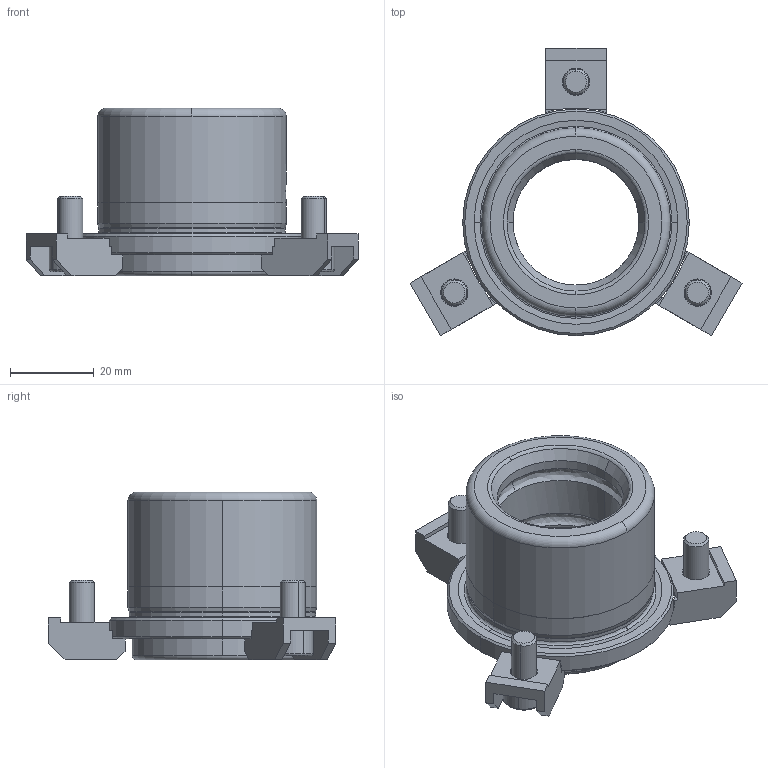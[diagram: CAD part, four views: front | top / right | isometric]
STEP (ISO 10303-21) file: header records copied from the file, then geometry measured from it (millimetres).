
FILE_DESCRIPTION((''),'2;1');
FILE_NAME('B12_030_010.stp','2008-11-04T13:48:52',(''),(''),'Mechanical Desktop 2009','Mechanical Desktop 2009',', , ');
FILE_SCHEMA(('CONFIG_CONTROL_DESIGN'));
Length unit declared in the file: millimetre
Products named in the file (2): Product; blmdl1
Assembly tree (1 placements, depth 2):
  Product
    blmdl1
Bounding box: 79.13 x 68.53 x 40 mm (x, y, z)
Volume: 41253 mm3; surface area: 17566.4 mm2
Topology: 7 solids, 7 shells, 196 faces, 510 edges, 335 vertices
Faces by surface type: plane 104, cylinder 47, cone 16, bspline 15, torus 14
Entity records: 7076 total; most frequent: CARTESIAN_POINT 2022, DIRECTION 1070, ORIENTED_EDGE 1020, EDGE_CURVE 510, AXIS2_PLACEMENT_3D 385, VERTEX_POINT 335, VECTOR 300, LINE 300
